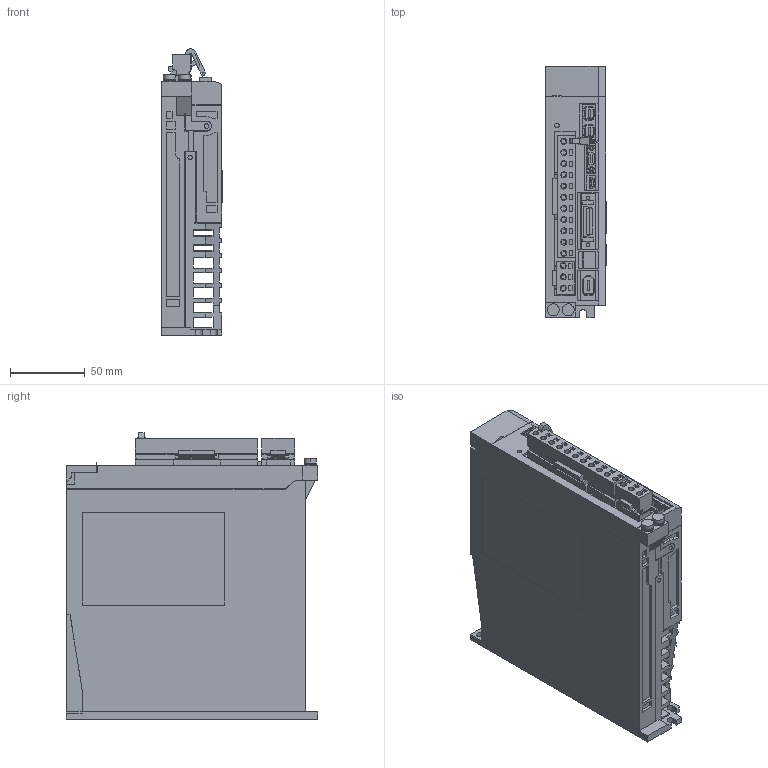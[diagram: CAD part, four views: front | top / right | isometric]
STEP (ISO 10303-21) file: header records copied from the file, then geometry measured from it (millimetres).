
FILE_DESCRIPTION (( 'STEP AP203' ), '1' );
FILE_NAME ('sgd7s_r70f20a.STEP', '2016-12-26T08:26:17', ( '匠エンジニアリング山之内' ), ( 'TAKUMI-Engniaring' ), 'SwSTEP 2.0', 'SolidWorks 2006303', '' );
FILE_SCHEMA (( 'CONFIG_CONTROL_DESIGN' ));
Length unit declared in the file: millimetre
Products named in the file (9): sgd7s_r70f20a_connector_3; sgd7s_r70f20a; sgd7s_r70f20a_base; sgd7s_r70f20a_connector; sgd7s_r70f20a_connector_2; sgd7s_r70f20a_pin; sgd7s_r70f20a_connector_1; sgd7s_r70f20a_cover; sgd7s_r70f20a_cover2
Assembly tree (9 placements, depth 3):
  sgd7s_r70f20a
    sgd7s_r70f20a_connector
      sgd7s_r70f20a_pin
      sgd7s_r70f20a_connector_2
    sgd7s_r70f20a_connector_3
    sgd7s_r70f20a_cover
    sgd7s_r70f20a_base
    sgd7s_r70f20a_connector_1
    sgd7s_r70f20a_cover2  x2
Bounding box: 40.5 x 168 x 191.83 mm (x, y, z)
Volume: 936045.3 mm3; surface area: 168962 mm2
Topology: 8 solids, 8 shells, 1806 faces, 4828 edges, 3178 vertices
Faces by surface type: plane 1657, cylinder 144, cone 4, sphere 1
Entity records: 55647 total; most frequent: CARTESIAN_POINT 9714, ORIENTED_EDGE 9548, DIRECTION 8666, EDGE_CURVE 4774, VECTOR 4478, LINE 4478, VERTEX_POINT 3142, AXIS2_PLACEMENT_3D 2094
